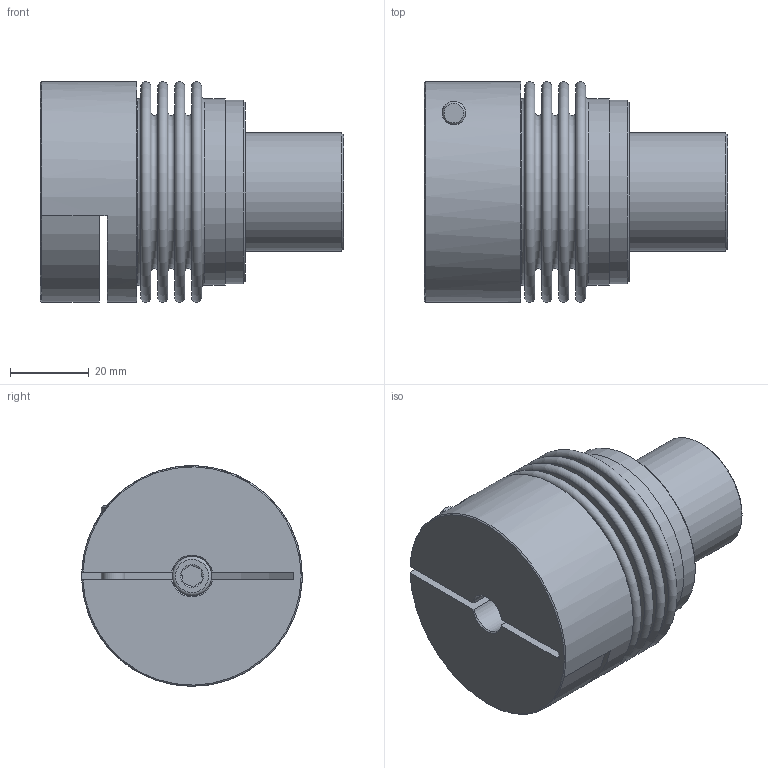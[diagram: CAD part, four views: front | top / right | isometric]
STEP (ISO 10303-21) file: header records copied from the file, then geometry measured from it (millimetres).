
FILE_DESCRIPTION( ( 'Unknown' ), '1' );
FILE_NAME( 'K:/Konstruktion/KB8/HP/KB8-30-53.stp', 'Unknown', ( 'Unknown' ), ( 'Unknown' ), 'PSStep 16.0.42', 'Unknown', ' ' );
FILE_SCHEMA( ( 'AUTOMOTIVE_DESIGN { 1 0 10303 214 1 1 1 1 }' ) );
Length unit declared in the file: millimetre
Products named in the file (5): Assem1; BK30_Standard_1; KN30_Standard_1-D16; Spreiznabe30; ISO EN DIN 4762 M6x25
Assembly tree (5 placements, depth 2):
  Assem1
    BK30_Standard_1
    KN30_Standard_1-D16
    Spreiznabe30
    ISO EN DIN 4762 M6x25  x2
Bounding box: 77 x 55.99 x 55.99 mm (x, y, z)
Volume: 94626.9 mm3; surface area: 47540.8 mm2
Topology: 5 solids, 5 shells, 124 faces, 230 edges, 143 vertices
Faces by surface type: plane 58, cylinder 26, torus 20, cone 20
Full cylindrical faces by diameter (mm): 5 x2, 6 x5, 6.4 x1, 6.5 x1, 10 x3, 11 x2, 30 x1, 45.7 x1, 46.5 x3, 47.3 x2, 56 x1
Entity records: 3285 total; most frequent: CARTESIAN_POINT 566, DIRECTION 417, ORIENTED_EDGE 272, AXIS2_PLACEMENT_3D 193, EDGE_LOOP 170, EDGE_CURVE 136, FACE_OUTER_BOUND 133, VERTEX_POINT 118
